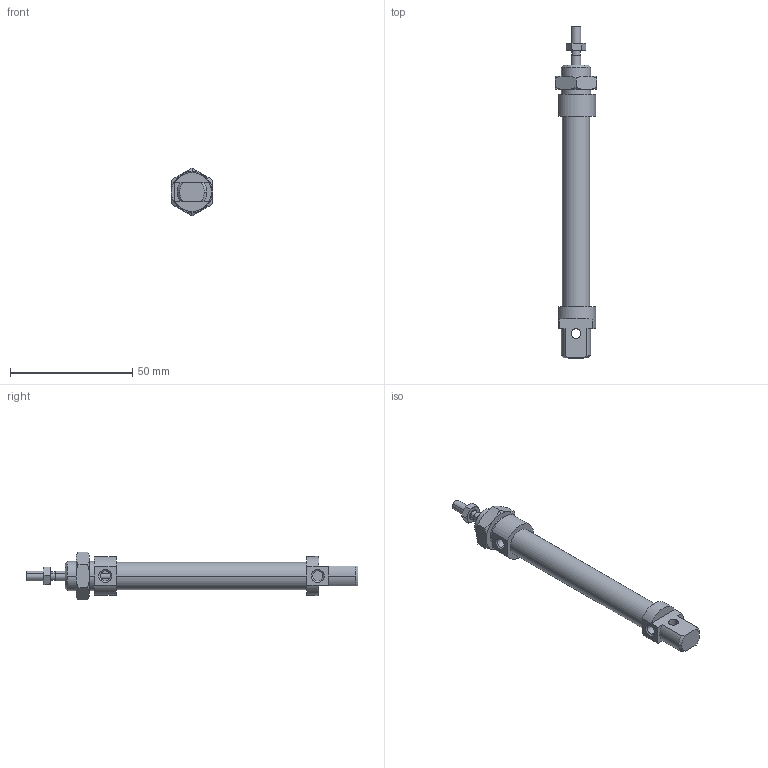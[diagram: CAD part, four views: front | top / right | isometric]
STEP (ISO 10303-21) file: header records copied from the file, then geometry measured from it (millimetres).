
FILE_DESCRIPTION((''),'2;1');
FILE_NAME('I:\DOC-EDP\Lib-3d\1200\CILINDRI\1280\1280_10_0050.stp','2003-04-07T14:45:57',('maffial1'),(''),'Autodesk Inventor (R) 6.0','Autodesk Inventor (R) 6.0','');
FILE_SCHEMA(('AUTOMOTIVE_DESIGN { 1 0 10303 214 1 1 1 1 }'));
Length unit declared in the file: millimetre
Products named in the file (5): 1280_10_0050; S1280_10_50; 1200_10_05; 1200_10_06; C1280_10_50
Assembly tree (4 placements, depth 2):
  1280_10_0050
    S1280_10_50
    1200_10_05
    1200_10_06
    C1280_10_50
Bounding box: 17 x 136 x 19.63 mm (x, y, z)
Volume: 14183.5 mm3; surface area: 8194.4 mm2
Topology: 4 solids, 4 shells, 117 faces, 261 edges, 158 vertices
Faces by surface type: cone 40, plane 34, cylinder 22, bspline 21
Entity records: 3582 total; most frequent: CARTESIAN_POINT 992, DIRECTION 531, ORIENTED_EDGE 522, EDGE_CURVE 261, AXIS2_PLACEMENT_3D 221, VERTEX_POINT 158, EDGE_LOOP 131, FACE_OUTER_BOUND 117
